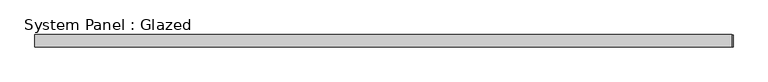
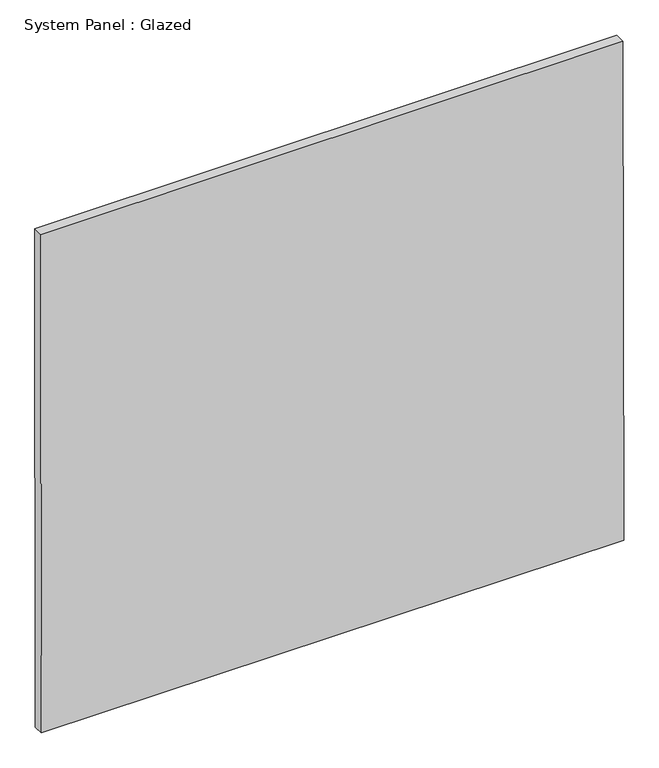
"""IFC4 building model written with IfcOpenShell, lengths in millimetres: plate geometry, System Panel : Glazed."""

from ifc_helpers import new_model, si_unit, frame, origin, place, context, project, spatial, polyline, outline, extrude, source, transform, mapped, element, save


def system_panel_glazed_85b74ca6(model_context):
    return source(origin(), model_context, "Body", "SweptSolid", [
        extrude(outline(polyline([(0.0, -707.8371593), (0.0, 708.7582549), (1283.1959169, 705.9896132), (1281.1603038, -708.7582549), (0.0, -707.8371593)])), frame((0.0, -49.5, 0.0), z_axis=(0.0, 1.0, 0.0), x_axis=(0.0, 0.0, 1.0)), (0.0, 0.0, 1.0), 25.0),
    ])


if __name__ == "__main__":
    model = new_model("IFC4")
    model_context = context("Model", 3, world=origin())
    ifc_project = project(units=[si_unit("LENGTHUNIT", "METRE", prefix="MILLI")], contexts=[model_context])
    site = spatial("IfcSite", under=ifc_project)
    building = spatial("IfcBuilding", under=site)
    placement = place(None, origin())
    system_panel_glazed_shape = system_panel_glazed_85b74ca6(model_context)
    element("IfcPlate", 1, ObjectType="System Panel : Glazed", at=placement, inside=building, context=model_context, shape_type="MappedRepresentation", body=[
        mapped(system_panel_glazed_shape, transform((0.0, 0.0, 0.0), x_axis=(1.0, 0.0, 0.0), y_axis=(0.0, 1.0, 0.0), z_axis=(0.0, 0.0, 1.0))),
    ])
    save(model, "model.ifc")
